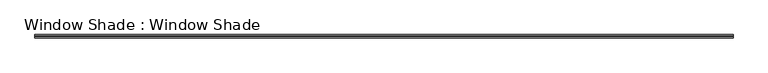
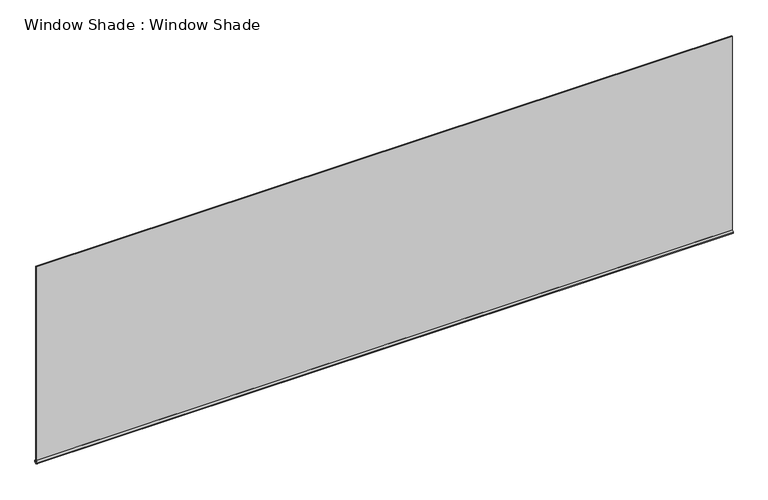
"""IFC4 building model written with IfcOpenShell, lengths in millimetres: furniture geometry, Window Shade : Window Shade."""

from ifc_helpers import new_model, si_unit, point, frame, frame_2d, origin, place, context, project, spatial, polyline, circle_curve, trimmed, segment, composite_curve, outline, extrude, source, transform, mapped, element, save


def window_shade_window_shade_f4653c68(model_context):
    return source(origin(), model_context, "Body", "SweptSolid", [
        extrude(outline(polyline([(2518.3930066, 1.5875), (2518.3930066, -1.5875), (-2518.3930066, -1.5875), (-2518.3930066, 1.5875), (2518.3930066, 1.5875)])), frame((0.0, 0.0, 2161.6441885), z_axis=(0.0, 0.0, 1.0), x_axis=(1.0, 0.0, 0.0)), (0.0, 0.0, 1.0), 1495.9558115),
        extrude(outline(composite_curve([segment(trimmed(circle_curve(frame_2d((0.0, 2161.6441885)), 12.7), [point((-12.7, 2161.6441885))], [point((12.7, 2161.6441885))], False, "CARTESIAN"), True, "CONTINUOUS"), segment(trimmed(circle_curve(frame_2d((0.0, 2161.6441885)), 12.7), [point((12.7, 2161.6441885))], [point((-12.7, 2161.6441885))], False, "CARTESIAN"), True, "CONTINUOUS")], self_intersect=False)), frame((-2518.3930066, 0.0, 0.0), z_axis=(1.0, 0.0, 0.0), x_axis=(0.0, 1.0, 0.0)), (0.0, 0.0, 1.0), 5036.7860132),
    ])


if __name__ == "__main__":
    model = new_model("IFC4")
    model_context = context("Model", 3, world=origin())
    ifc_project = project(units=[si_unit("LENGTHUNIT", "METRE", prefix="MILLI")], contexts=[model_context])
    site = spatial("IfcSite", under=ifc_project)
    building = spatial("IfcBuilding", under=site)
    placement = place(None, origin())
    window_shade_window_shade_shape = window_shade_window_shade_f4653c68(model_context)
    element("IfcFurniture", 1, ObjectType="Window Shade : Window Shade", at=placement, inside=building, context=model_context, shape_type="MappedRepresentation", body=[
        mapped(window_shade_window_shade_shape, transform((0.0, 0.0, 0.0), x_axis=(1.0, 0.0, 0.0), y_axis=(0.0, 1.0, 0.0), z_axis=(0.0, 0.0, 1.0))),
    ])
    save(model, "model.ifc")
